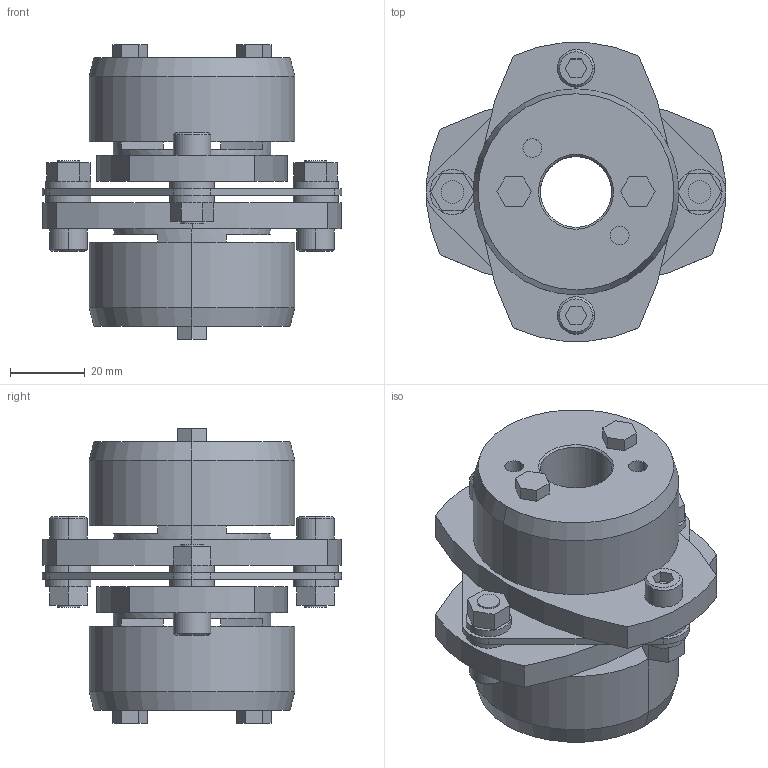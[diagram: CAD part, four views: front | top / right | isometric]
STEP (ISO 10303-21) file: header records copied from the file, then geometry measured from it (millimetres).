
FILE_DESCRIPTION((''),'2;1');
FILE_NAME('LCS-80T7-19×19.stp','2011-09-12T15:14:26',(''),(''),'AutoCAD STEP 2000i','AutoCAD 2000i',', , ');
FILE_SCHEMA(('CONFIG_CONTROL_DESIGN'));
Length unit declared in the file: millimetre
Products named in the file (7): LCS-80T7-19×19; 忣兜1; LC80T7-T019-1; LC80T7-T019; LC80T7-T017-1; LC80T7-T017; LCS80-ITA
Assembly tree (6 placements, depth 2):
  LCS-80T7-19×19
    忣兜1
    LC80T7-T019-1
    LC80T7-T019
    LC80T7-T017-1
    LC80T7-T017
    LCS80-ITA
Bounding box: 80 x 79.95 x 78.75 mm (x, y, z)
Volume: 152283.3 mm3; surface area: 42466.3 mm2
Topology: 1 solids, 1 shells, 218 faces, 532 edges, 348 vertices
Faces by surface type: plane 118, cylinder 80, cone 20
Entity records: 6647 total; most frequent: DIRECTION 1178, CARTESIAN_POINT 1105, ORIENTED_EDGE 1064, EDGE_CURVE 532, AXIS2_PLACEMENT_3D 421, VERTEX_POINT 348, VECTOR 336, LINE 336
